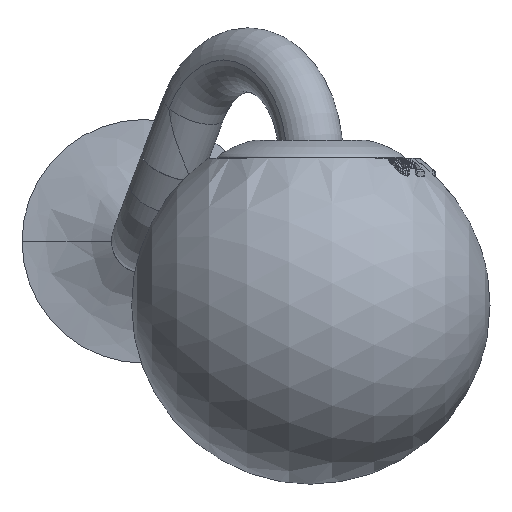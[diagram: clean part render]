
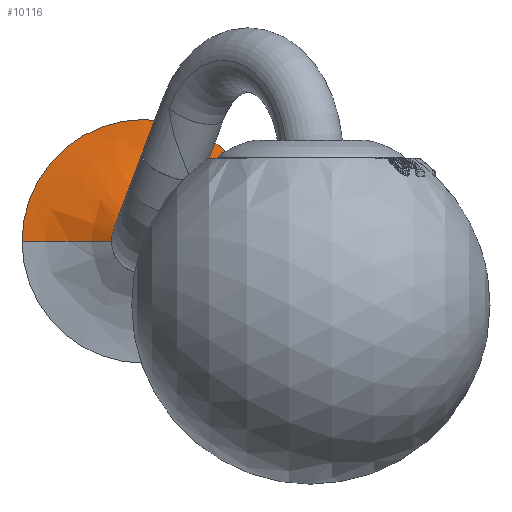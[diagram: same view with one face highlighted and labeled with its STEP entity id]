
A CAD part, top view. The second image highlights one B-rep face of the part: STEP entity #10116.
In plain terms, the highlighted free-form (B-spline) face has degree [3, 3] with [7, 4] control points.
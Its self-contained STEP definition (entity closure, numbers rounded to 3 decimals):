
#9891=CARTESIAN_POINT('',(0.,0.,6.));
#9892=DIRECTION('',(0.,0.,1.));
#9893=DIRECTION('',(0.,1.,0.));
#9894=AXIS2_PLACEMENT_3D('',#9891,#9892,#9893);
#9914=CARTESIAN_POINT('',(0.,-17.,23.531));
#9915=DIRECTION('',(1.,0.,0.));
#9916=DIRECTION('',(0.,0.,-1.));
#9917=AXIS2_PLACEMENT_3D('',#9914,#9915,#9916);
#9919=CARTESIAN_POINT('',(0.,17.,23.531));
#9920=DIRECTION('',(-1.,0.,0.));
#9921=DIRECTION('',(0.,0.,-1.));
#9922=AXIS2_PLACEMENT_3D('',#9919,#9920,#9921);
#9932=CARTESIAN_POINT('',(0.,0.,2.));
#9933=DIRECTION('',(0.,0.,1.));
#9934=DIRECTION('',(0.,1.,0.));
#9935=AXIS2_PLACEMENT_3D('',#9932,#9933,#9934);
#9967=CARTESIAN_POINT('',(0.,4.5,6.));
#9969=VERTEX_POINT('',#9967);
#9971=CARTESIAN_POINT('',(0.,-4.5,6.));
#9973=VERTEX_POINT('',#9971);
#9975=CARTESIAN_POINT('',(0.,-17.,
2.));
#9976=CARTESIAN_POINT('',(0.,17.,
2.));
#9977=VERTEX_POINT('',#9975);
#9978=VERTEX_POINT('',#9976);
#10081=CARTESIAN_POINT('',(0.269,4.275,
6.156));
#10082=CARTESIAN_POINT('',(0.507,8.065,
3.377));
#10083=CARTESIAN_POINT('',(0.789,12.537,
1.943));
#10084=CARTESIAN_POINT('',(1.084,17.233,2.002));
#10085=CARTESIAN_POINT('',(-2.362,4.441,
6.156));
#10086=CARTESIAN_POINT('',(-4.456,8.377,
3.377));
#10087=CARTESIAN_POINT('',(-6.927,13.023,
1.943));
#10088=CARTESIAN_POINT('',(-9.521,17.9,
2.002));
#10089=CARTESIAN_POINT('',(-4.284,2.636,
6.156));
#10090=CARTESIAN_POINT('',(-8.081,4.973,
3.377));
#10091=CARTESIAN_POINT('',(-12.562,7.731,
1.943));
#10092=CARTESIAN_POINT('',(-17.267,10.626,
2.002));
#10093=CARTESIAN_POINT('',(-4.284,0.,6.156));
#10094=CARTESIAN_POINT('',(-8.081,0.,3.377));
#10095=CARTESIAN_POINT('',(-12.562,0.,1.943));
#10096=CARTESIAN_POINT('',(-17.267,0.,2.002));
#10097=CARTESIAN_POINT('',(-4.284,-2.636,
6.156));
#10098=CARTESIAN_POINT('',(-8.081,-4.973,
3.377));
#10099=CARTESIAN_POINT('',(-12.562,-7.731,
1.943));
#10100=CARTESIAN_POINT('',(-17.267,-10.626,
2.002));
#10101=CARTESIAN_POINT('',(-2.362,-4.441,
6.156));
#10102=CARTESIAN_POINT('',(-4.456,-8.377,
3.377));
#10103=CARTESIAN_POINT('',(-6.927,-13.023,
1.943));
#10104=CARTESIAN_POINT('',(-9.521,-17.9,
2.002));
#10105=CARTESIAN_POINT('',(0.269,-4.275,
6.156));
#10106=CARTESIAN_POINT('',(0.507,-8.065,
3.377));
#10107=CARTESIAN_POINT('',(0.789,-12.537,
1.943));
#10108=CARTESIAN_POINT('',(1.084,-17.233,
2.002));
#10109=(BOUNDED_SURFACE()B_SPLINE_SURFACE(3,3,((#10081,#10082,#10083,#10084),(
#10085,#10086,#10087,#10088),(#10089,#10090,#10091,#10092),(#10093,#10094,
#10095,#10096),(#10097,#10098,#10099,#10100),(#10101,#10102,#10103,#10104),(
#10105,#10106,#10107,#10108)),.UNSPECIFIED.,.F.,.F.,.F.)B_SPLINE_SURFACE_WITH_KNOTS((4,3,4),(4,4),(0.,1.,2.),(0.,1.),.UNSPECIFIED.)GEOMETRIC_REPRESENTATION_ITEM()RATIONAL_B_SPLINE_SURFACE(((1.219,1.177,
1.177,1.219),(0.962,0.929,
0.929,0.962),(0.962,0.929,
0.929,0.962),(1.219,1.177,
1.177,1.219),(0.962,0.929,
0.929,0.962),(0.962,0.929,
0.929,0.962),(1.219,1.177,
1.177,1.219)))REPRESENTATION_ITEM('')SURFACE());
#10110=ORIENTED_EDGE('',*,*,#10072,.F.);
#10111=ORIENTED_EDGE('',*,*,#10047,.T.);
#10112=ORIENTED_EDGE('',*,*,#9994,.T.);
#10113=ORIENTED_EDGE('',*,*,#10044,.F.);
#10114=EDGE_LOOP('',(#10110,#10111,#10112,#10113));
#10115=FACE_OUTER_BOUND('',#10114,.F.);
#10116=ADVANCED_FACE('',(#10115),#10109,.F.);
#9895=CIRCLE('',#9894,4.5);
#9918=CIRCLE('',#9917,21.531);
#9923=CIRCLE('',#9922,21.531);
#9936=CIRCLE('',#9935,17.);
#9994=EDGE_CURVE('',#9969,#9973,#9895,.T.);
#10044=EDGE_CURVE('',#9977,#9973,#9918,.T.);
#10047=EDGE_CURVE('',#9978,#9969,#9923,.T.);
#10072=EDGE_CURVE('',#9978,#9977,#9936,.T.);
